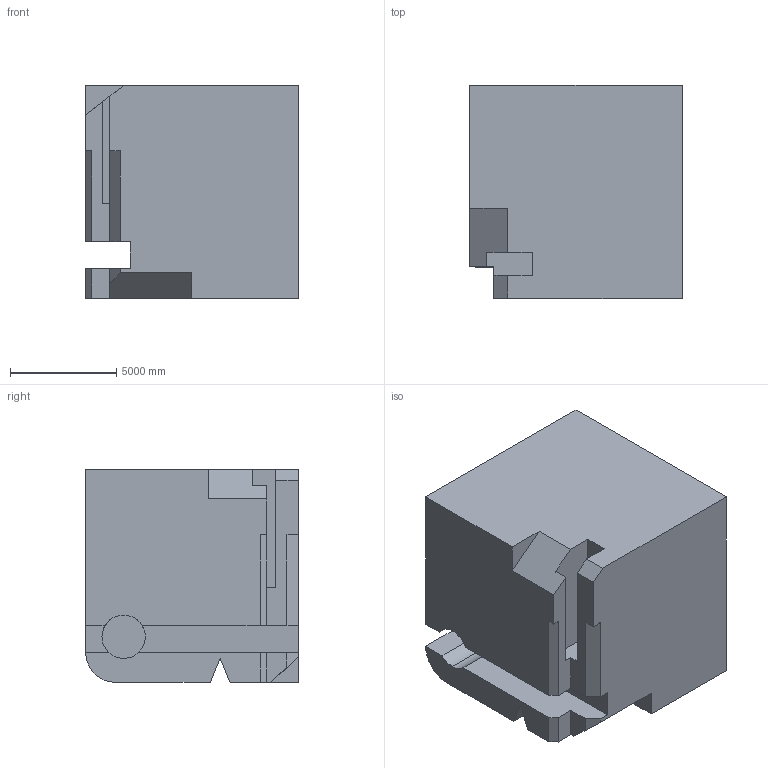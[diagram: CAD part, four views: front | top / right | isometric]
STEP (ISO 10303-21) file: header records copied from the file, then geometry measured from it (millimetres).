
FILE_DESCRIPTION (( 'STEP AP203' ), '1' );
FILE_NAME ('1957.STEP', '2022-08-23T09:57:27', ( 'user' ), ( '' ), 'SwSTEP 2.0', 'SolidWorks 2021', '' );
FILE_SCHEMA (( 'CONFIG_CONTROL_DESIGN' ));
Length unit declared in the file: centimetre
Products named in the file (1): 1957
Bounding box: 10000 x 10000 x 10000 mm (x, y, z)
Volume: 897772961053.4 mm3; surface area: 719389217 mm2
Topology: 1 solids, 1 shells, 47 faces, 132 edges, 88 vertices
Faces by surface type: plane 44, cylinder 3
Entity records: 1574 total; most frequent: CARTESIAN_POINT 268, ORIENTED_EDGE 264, DIRECTION 239, EDGE_CURVE 132, LINE 121, VECTOR 121, VERTEX_POINT 88, AXIS2_PLACEMENT_3D 59
